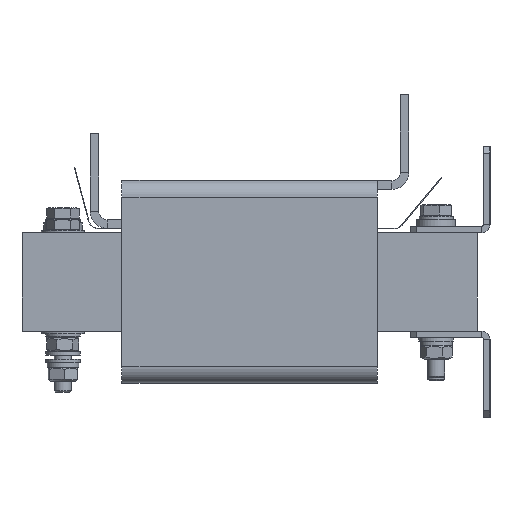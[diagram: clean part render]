
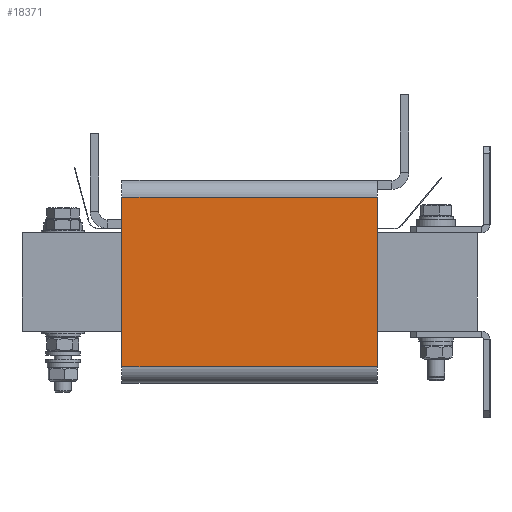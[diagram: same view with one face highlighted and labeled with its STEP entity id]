
A CAD part, left-side view. The second image highlights one B-rep face of the part: STEP entity #18371.
In plain terms, the highlighted planar face has unit normal (-1, 0, 0).
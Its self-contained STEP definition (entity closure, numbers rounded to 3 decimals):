
#1889=FACE_OUTER_BOUND('',#3025,.T.);
#3025=EDGE_LOOP('',(#13822,#13823,#13824,#13825));
#4572=LINE('',#28727,#6270);
#4573=LINE('',#28733,#6271);
#4574=LINE('',#28734,#6272);
#4575=LINE('',#28735,#6273);
#6270=VECTOR('',#22791,10.);
#6271=VECTOR('',#22798,10.);
#6272=VECTOR('',#22799,10.);
#6273=VECTOR('',#22800,10.);
#8038=VERTEX_POINT('',#28725);
#8039=VERTEX_POINT('',#28726);
#8040=VERTEX_POINT('',#28731);
#8041=VERTEX_POINT('',#28732);
#10157=EDGE_CURVE('',#8038,#8039,#4572,.T.);
#10160=EDGE_CURVE('',#8040,#8041,#4573,.T.);
#10161=EDGE_CURVE('',#8038,#8040,#4574,.T.);
#10162=EDGE_CURVE('',#8041,#8039,#4575,.T.);
#13822=ORIENTED_EDGE('',*,*,#10160,.F.);
#13823=ORIENTED_EDGE('',*,*,#10161,.F.);
#13824=ORIENTED_EDGE('',*,*,#10157,.T.);
#13825=ORIENTED_EDGE('',*,*,#10162,.F.);
#16421=PLANE('',#19661);
#18371=ADVANCED_FACE('',(#1889),#16421,.T.);
#19661=AXIS2_PLACEMENT_3D('',#28730,#22796,#22797);
#22791=DIRECTION('',(0.,-1.,0.));
#22796=DIRECTION('center_axis',(-1.,0.,0.));
#22797=DIRECTION('ref_axis',(0.,0.,1.));
#22798=DIRECTION('',(0.,-1.,0.));
#22799=DIRECTION('',(0.,0.,1.));
#22800=DIRECTION('',(0.,0.,-1.));
#28725=CARTESIAN_POINT('',(-127.3,59.25,-39.29));
#28726=CARTESIAN_POINT('',(-127.3,-59.25,-39.29));
#28727=CARTESIAN_POINT('',(-127.3,0.,-39.29));
#28730=CARTESIAN_POINT('Origin',(-127.3,0.,-39.29));
#28731=CARTESIAN_POINT('',(-127.3,59.25,39.29));
#28732=CARTESIAN_POINT('',(-127.3,-59.25,39.29));
#28733=CARTESIAN_POINT('',(-127.3,0.,39.29));
#28734=CARTESIAN_POINT('',(-127.3,59.25,39.29));
#28735=CARTESIAN_POINT('',(-127.3,-59.25,39.29));
